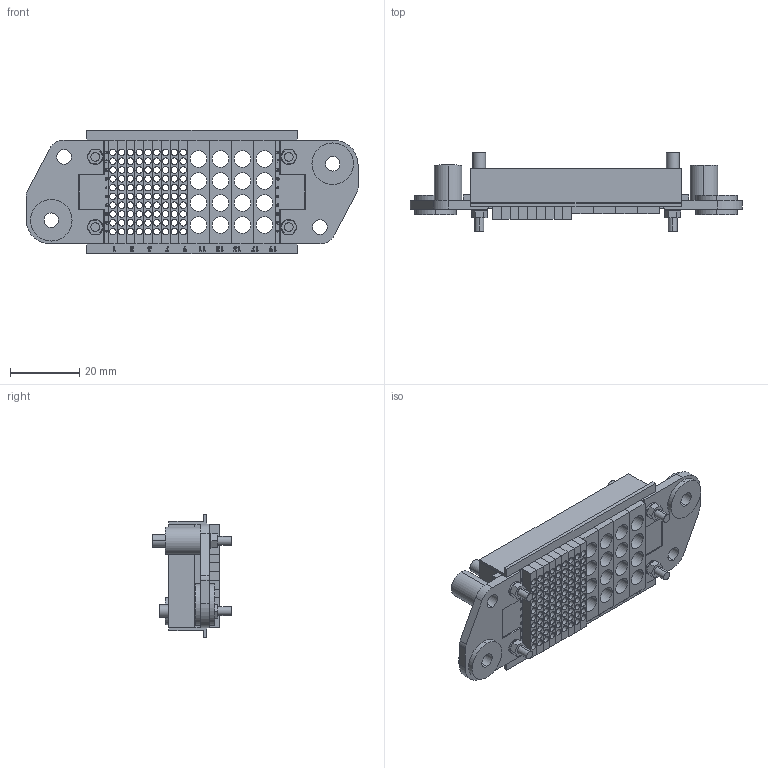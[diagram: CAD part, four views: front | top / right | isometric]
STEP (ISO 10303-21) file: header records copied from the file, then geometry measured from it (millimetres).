
FILE_DESCRIPTION (( 'STEP AP214' ), '1' );
FILE_NAME ('Hypertronics3DCONFIG-NEH-NEH194KFR5KFRR4VFP1TAH.step', '2016-10-20T21:10:48', ( 'Windows User' ), ( '' ), 'SwSTEP 2.0', 'SolidWorks 2016', '' );
FILE_SCHEMA (( 'AUTOMOTIVE_DESIGN' ));
Length unit declared in the file: millimetre
Products named in the file (7): Hypertronics3DCONFIG-NEH-NEH194KFR5KFRR4VFP1TAH_N-SERIES-MODULE_NV; Hypertronics3DCONFIG-NEH-NEH194KFR5KFRR4VFP1TAH_N-SERIES-MODULE_NK; Hypertronics3DCONFIG-NEH-NEH194KFR5KFRR4VFP1TAH_NE-SIDE RAIL_19B; Hypertronics3DCONFIG-NEH-NEH194KFR5KFRR4VFP1TAH_NE-SIDE RAIL_19T; Hypertronics3DCONFIG-NEH-NEH194KFR5KFRR4VFP1TAH_NEH ENDCAP_Right; Hypertronics3DCONFIG-NEH-NEH194KFR5KFRR4VFP1TAH_NEH ENDCAP_Left; Hypertronics3DCONFIG-NEH-NEH194KFR5KFRR4VFP1TAH
Assembly tree (17 placements, depth 2):
  Hypertronics3DCONFIG-NEH-NEH194KFR5KFRR4VFP1TAH
    Hypertronics3DCONFIG-NEH-NEH194KFR5KFRR4VFP1TAH_NEH ENDCAP_Left
    Hypertronics3DCONFIG-NEH-NEH194KFR5KFRR4VFP1TAH_NEH ENDCAP_Right
    Hypertronics3DCONFIG-NEH-NEH194KFR5KFRR4VFP1TAH_NE-SIDE RAIL_19T
    Hypertronics3DCONFIG-NEH-NEH194KFR5KFRR4VFP1TAH_NE-SIDE RAIL_19B
    Hypertronics3DCONFIG-NEH-NEH194KFR5KFRR4VFP1TAH_N-SERIES-MODULE_NK  x9
    Hypertronics3DCONFIG-NEH-NEH194KFR5KFRR4VFP1TAH_N-SERIES-MODULE_NV  x4
Bounding box: 95.88 x 22.65 x 35.74 mm (x, y, z)
Volume: 21724 mm3; surface area: 35925.8 mm2
Topology: 17 solids, 17 shells, 1343 faces, 3542 edges, 2340 vertices
Faces by surface type: plane 831, cylinder 274, bspline 230, cone 8
Entity records: 56373 total; most frequent: CARTESIAN_POINT 20565, ORIENTED_EDGE 5716, DIRECTION 4400, EDGE_CURVE 2858, VECTOR 2162, LINE 2162, VERTEX_POINT 1884, EDGE_LOOP 1240
